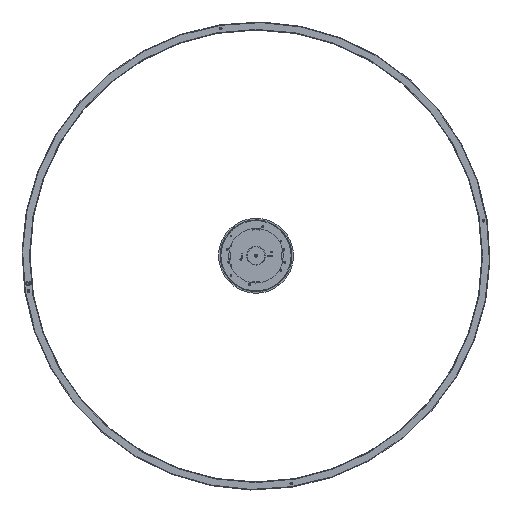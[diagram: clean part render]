
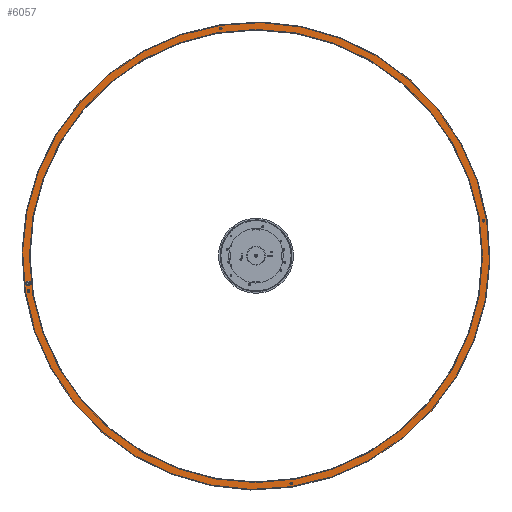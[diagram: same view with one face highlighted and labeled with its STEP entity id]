
A CAD part, top view. The second image highlights one B-rep face of the part: STEP entity #6057.
In plain terms, the highlighted planar face has unit normal (0, 0, 1).
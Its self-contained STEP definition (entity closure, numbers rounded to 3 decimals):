
#262 = FACE_BOUND ( 'NONE', #11209, .T. ) ;
#408 = CARTESIAN_POINT ( 'NONE',  ( -728.878, -112.441, -498.5 ) ) ;
#605 = CIRCLE ( 'NONE', #6007, 750. ) ;
#619 = CARTESIAN_POINT ( 'NONE',  ( -732.271, -87.668, -498.5 ) ) ;
#632 = CARTESIAN_POINT ( 'NONE',  ( 112.761, -730.954, -498.5 ) ) ;
#999 = EDGE_CURVE ( 'NONE', #9111, #11553, #10919, .T. ) ;
#1036 = CARTESIAN_POINT ( 'NONE',  ( 112.441, -728.878, -498.5 ) ) ;
#1063 = CIRCLE ( 'NONE', #3077, 2.1 ) ;
#1336 = DIRECTION ( 'NONE',  ( 0., 0., 1. ) ) ;
#1361 = ORIENTED_EDGE ( 'NONE', *, *, #10074, .F. ) ;
#1461 = DIRECTION ( 'NONE',  ( 0.152, -0.988, 0. ) ) ;
#1488 = ORIENTED_EDGE ( 'NONE', *, *, #7614, .F. ) ;
#1581 = AXIS2_PLACEMENT_3D ( 'NONE', #5424, #4566, #10768 ) ;
#1794 = CARTESIAN_POINT ( 'NONE',  ( 112.441, -728.878, -498.5 ) ) ;
#1837 = AXIS2_PLACEMENT_3D ( 'NONE', #7186, #11485, #3737 ) ;
#2145 = VERTEX_POINT ( 'NONE', #10199 ) ;
#2209 = EDGE_CURVE ( 'NONE', #4905, #3773, #5360, .T. ) ;
#2211 = ORIENTED_EDGE ( 'NONE', *, *, #11304, .F. ) ;
#2558 = EDGE_LOOP ( 'NONE', ( #11122, #12806 ) ) ;
#2783 = EDGE_CURVE ( 'NONE', #8912, #3572, #8975, .T. ) ;
#2983 = ORIENTED_EDGE ( 'NONE', *, *, #9884, .F. ) ;
#3021 = ORIENTED_EDGE ( 'NONE', *, *, #2783, .F. ) ;
#3077 = AXIS2_PLACEMENT_3D ( 'NONE', #7747, #1336, #6629 ) ;
#3387 = FACE_BOUND ( 'NONE', #2558, .T. ) ;
#3394 = VERTEX_POINT ( 'NONE', #13775 ) ;
#3566 = ORIENTED_EDGE ( 'NONE', *, *, #999, .F. ) ;
#3572 = VERTEX_POINT ( 'NONE', #5675 ) ;
#3709 = CARTESIAN_POINT ( 'NONE',  ( 0., 0., -498.5 ) ) ;
#3737 = DIRECTION ( 'NONE',  ( 0.152, -0.988, 0. ) ) ;
#3767 = AXIS2_PLACEMENT_3D ( 'NONE', #10878, #6512, #4390 ) ;
#3773 = VERTEX_POINT ( 'NONE', #11291 ) ;
#3796 = AXIS2_PLACEMENT_3D ( 'NONE', #619, #13321, #12258 ) ;
#3800 = AXIS2_PLACEMENT_3D ( 'NONE', #8479, #6447, #4266 ) ;
#3802 = EDGE_CURVE ( 'NONE', #3773, #4905, #7641, .T. ) ;
#4094 = DIRECTION ( 'NONE',  ( 0., 0., 1. ) ) ;
#4105 = CARTESIAN_POINT ( 'NONE',  ( -728.878, -112.441, -498.5 ) ) ;
#4266 = DIRECTION ( 'NONE',  ( 0.152, -0.988, 0. ) ) ;
#4307 = CARTESIAN_POINT ( 'NONE',  ( -114.347, 741.232, -498.5 ) ) ;
#4390 = DIRECTION ( 'NONE',  ( 0.152, -0.988, 0. ) ) ;
#4406 = VERTEX_POINT ( 'NONE', #4307 ) ;
#4409 = AXIS2_PLACEMENT_3D ( 'NONE', #13655, #11269, #4791 ) ;
#4442 = CARTESIAN_POINT ( 'NONE',  ( 114.347, -741.232, -498.5 ) ) ;
#4497 = FACE_BOUND ( 'NONE', #13264, .T. ) ;
#4522 = AXIS2_PLACEMENT_3D ( 'NONE', #1794, #9390, #10525 ) ;
#4566 = DIRECTION ( 'NONE',  ( 0., 0., 1. ) ) ;
#4597 = EDGE_CURVE ( 'NONE', #13096, #6824, #9871, .T. ) ;
#4626 = CARTESIAN_POINT ( 'NONE',  ( -728.558, -114.516, -498.5 ) ) ;
#4713 = DIRECTION ( 'NONE',  ( 0.152, -0.988, 0. ) ) ;
#4791 = DIRECTION ( 'NONE',  ( 0.152, -0.988, 0. ) ) ;
#4905 = VERTEX_POINT ( 'NONE', #4626 ) ;
#4966 = CIRCLE ( 'NONE', #4522, 2.1 ) ;
#5338 = ORIENTED_EDGE ( 'NONE', *, *, #8869, .T. ) ;
#5360 = CIRCLE ( 'NONE', #9387, 2.1 ) ;
#5371 = CARTESIAN_POINT ( 'NONE',  ( -732.271, -87.668, -498.5 ) ) ;
#5424 = CARTESIAN_POINT ( 'NONE',  ( 0., 0., -498.5 ) ) ;
#5674 = VERTEX_POINT ( 'NONE', #4442 ) ;
#5675 = CARTESIAN_POINT ( 'NONE',  ( -110.535, 716.524, -498.5 ) ) ;
#5699 = CARTESIAN_POINT ( 'NONE',  ( 110.535, -716.524, -498.5 ) ) ;
#5928 = VERTEX_POINT ( 'NONE', #11689 ) ;
#6007 = AXIS2_PLACEMENT_3D ( 'NONE', #3709, #12113, #9917 ) ;
#6057 = ADVANCED_FACE ( 'NONE', ( #12049, #262, #4497, #8655, #3387, #7531, #6759 ), #6474, .T. ) ;
#6253 = DIRECTION ( 'NONE',  ( 0.152, -0.988, 0. ) ) ;
#6379 = CIRCLE ( 'NONE', #8164, 2.1 ) ;
#6435 = CARTESIAN_POINT ( 'NONE',  ( -112.121, 726.803, -498.5 ) ) ;
#6437 = CARTESIAN_POINT ( 'NONE',  ( -733.071, -82.48, -498.5 ) ) ;
#6447 = DIRECTION ( 'NONE',  ( 0., 0., 1. ) ) ;
#6474 = PLANE ( 'NONE',  #1581 ) ;
#6512 = DIRECTION ( 'NONE',  ( 0., 0., 1. ) ) ;
#6629 = DIRECTION ( 'NONE',  ( 0.152, -0.988, 0. ) ) ;
#6759 = FACE_BOUND ( 'NONE', #8950, .T. ) ;
#6824 = VERTEX_POINT ( 'NONE', #6437 ) ;
#7043 = AXIS2_PLACEMENT_3D ( 'NONE', #13032, #8652, #7381 ) ;
#7090 = DIRECTION ( 'NONE',  ( 0., 0., 1. ) ) ;
#7186 = CARTESIAN_POINT ( 'NONE',  ( 728.878, 112.441, -498.5 ) ) ;
#7381 = DIRECTION ( 'NONE',  ( 0.152, -0.988, 0. ) ) ;
#7450 = DIRECTION ( 'NONE',  ( 0., 0., 1. ) ) ;
#7465 = EDGE_CURVE ( 'NONE', #4406, #5674, #8623, .T. ) ;
#7531 = FACE_OUTER_BOUND ( 'NONE', #9696, .T. ) ;
#7614 = EDGE_CURVE ( 'NONE', #5928, #8332, #6379, .T. ) ;
#7641 = CIRCLE ( 'NONE', #9416, 2.1 ) ;
#7747 = CARTESIAN_POINT ( 'NONE',  ( 728.878, 112.441, -498.5 ) ) ;
#7870 = DIRECTION ( 'NONE',  ( 0., 0., 1. ) ) ;
#8124 = CIRCLE ( 'NONE', #1837, 2.1 ) ;
#8164 = AXIS2_PLACEMENT_3D ( 'NONE', #11110, #7870, #1461 ) ;
#8279 = ORIENTED_EDGE ( 'NONE', *, *, #7465, .T. ) ;
#8332 = VERTEX_POINT ( 'NONE', #6435 ) ;
#8479 = CARTESIAN_POINT ( 'NONE',  ( 0., 0., -498.5 ) ) ;
#8623 = CIRCLE ( 'NONE', #7043, 750. ) ;
#8652 = DIRECTION ( 'NONE',  ( 0., 0., 1. ) ) ;
#8655 = FACE_BOUND ( 'NONE', #8701, .T. ) ;
#8701 = EDGE_LOOP ( 'NONE', ( #2211, #3566 ) ) ;
#8725 = EDGE_CURVE ( 'NONE', #2145, #3394, #1063, .T. ) ;
#8869 = EDGE_CURVE ( 'NONE', #5674, #4406, #605, .T. ) ;
#8912 = VERTEX_POINT ( 'NONE', #5699 ) ;
#8950 = EDGE_LOOP ( 'NONE', ( #10432, #3021 ) ) ;
#8975 = CIRCLE ( 'NONE', #3800, 725. ) ;
#9111 = VERTEX_POINT ( 'NONE', #10605 ) ;
#9124 = CIRCLE ( 'NONE', #4409, 2.1 ) ;
#9170 = ORIENTED_EDGE ( 'NONE', *, *, #4597, .F. ) ;
#9387 = AXIS2_PLACEMENT_3D ( 'NONE', #408, #7090, #4713 ) ;
#9390 = DIRECTION ( 'NONE',  ( 0., 0., 1. ) ) ;
#9416 = AXIS2_PLACEMENT_3D ( 'NONE', #4105, #11718, #11646 ) ;
#9420 = EDGE_CURVE ( 'NONE', #3572, #8912, #12323, .T. ) ;
#9655 = DIRECTION ( 'NONE',  ( 0.152, -0.988, 0. ) ) ;
#9696 = EDGE_LOOP ( 'NONE', ( #8279, #5338 ) ) ;
#9871 = CIRCLE ( 'NONE', #3796, 5.25 ) ;
#9884 = EDGE_CURVE ( 'NONE', #6824, #13096, #10307, .T. ) ;
#9917 = DIRECTION ( 'NONE',  ( 0.152, -0.988, 0. ) ) ;
#10074 = EDGE_CURVE ( 'NONE', #8332, #5928, #9124, .T. ) ;
#10199 = CARTESIAN_POINT ( 'NONE',  ( 728.558, 114.516, -498.5 ) ) ;
#10307 = CIRCLE ( 'NONE', #10536, 5.25 ) ;
#10432 = ORIENTED_EDGE ( 'NONE', *, *, #9420, .F. ) ;
#10525 = DIRECTION ( 'NONE',  ( 0.152, -0.988, 0. ) ) ;
#10536 = AXIS2_PLACEMENT_3D ( 'NONE', #5371, #4094, #9655 ) ;
#10605 = CARTESIAN_POINT ( 'NONE',  ( 112.121, -726.803, -498.5 ) ) ;
#10768 = DIRECTION ( 'NONE',  ( 0.152, -0.988, 0. ) ) ;
#10878 = CARTESIAN_POINT ( 'NONE',  ( 0., 0., -498.5 ) ) ;
#10919 = CIRCLE ( 'NONE', #13389, 2.1 ) ;
#11029 = ORIENTED_EDGE ( 'NONE', *, *, #8725, .F. ) ;
#11110 = CARTESIAN_POINT ( 'NONE',  ( -112.441, 728.878, -498.5 ) ) ;
#11122 = ORIENTED_EDGE ( 'NONE', *, *, #2209, .F. ) ;
#11209 = EDGE_LOOP ( 'NONE', ( #1361, #1488 ) ) ;
#11269 = DIRECTION ( 'NONE',  ( 0., 0., 1. ) ) ;
#11279 = CARTESIAN_POINT ( 'NONE',  ( -731.47, -92.857, -498.5 ) ) ;
#11291 = CARTESIAN_POINT ( 'NONE',  ( -729.198, -110.365, -498.5 ) ) ;
#11304 = EDGE_CURVE ( 'NONE', #11553, #9111, #4966, .T. ) ;
#11485 = DIRECTION ( 'NONE',  ( 0., 0., 1. ) ) ;
#11553 = VERTEX_POINT ( 'NONE', #632 ) ;
#11601 = EDGE_CURVE ( 'NONE', #3394, #2145, #8124, .T. ) ;
#11646 = DIRECTION ( 'NONE',  ( 0.152, -0.988, 0. ) ) ;
#11689 = CARTESIAN_POINT ( 'NONE',  ( -112.761, 730.954, -498.5 ) ) ;
#11718 = DIRECTION ( 'NONE',  ( 0., 0., 1. ) ) ;
#12049 = FACE_BOUND ( 'NONE', #13499, .T. ) ;
#12113 = DIRECTION ( 'NONE',  ( 0., 0., 1. ) ) ;
#12258 = DIRECTION ( 'NONE',  ( 0.152, -0.988, 0. ) ) ;
#12323 = CIRCLE ( 'NONE', #3767, 725. ) ;
#12554 = ORIENTED_EDGE ( 'NONE', *, *, #11601, .F. ) ;
#12806 = ORIENTED_EDGE ( 'NONE', *, *, #3802, .F. ) ;
#13032 = CARTESIAN_POINT ( 'NONE',  ( 0., 0., -498.5 ) ) ;
#13096 = VERTEX_POINT ( 'NONE', #11279 ) ;
#13264 = EDGE_LOOP ( 'NONE', ( #12554, #11029 ) ) ;
#13321 = DIRECTION ( 'NONE',  ( 0., 0., 1. ) ) ;
#13389 = AXIS2_PLACEMENT_3D ( 'NONE', #1036, #7450, #6253 ) ;
#13499 = EDGE_LOOP ( 'NONE', ( #9170, #2983 ) ) ;
#13655 = CARTESIAN_POINT ( 'NONE',  ( -112.441, 728.878, -498.5 ) ) ;
#13775 = CARTESIAN_POINT ( 'NONE',  ( 729.198, 110.365, -498.5 ) ) ;
